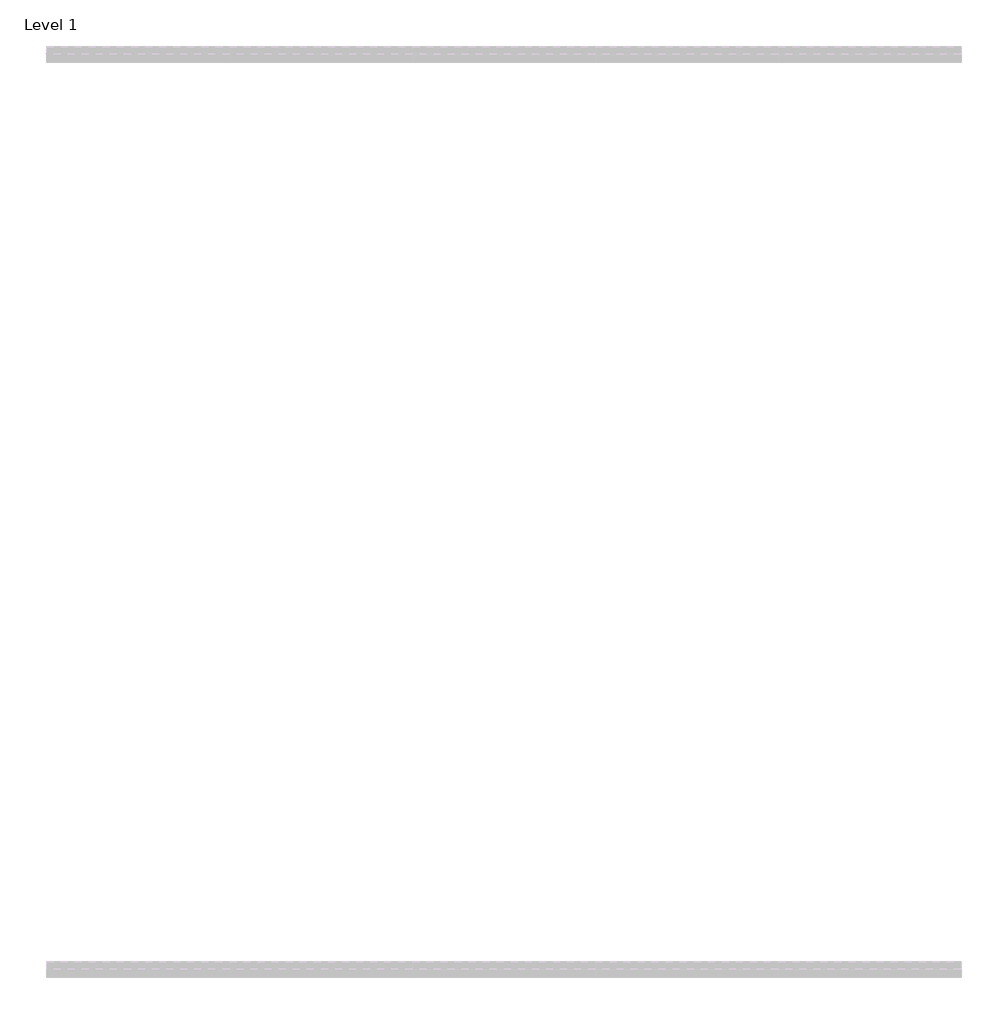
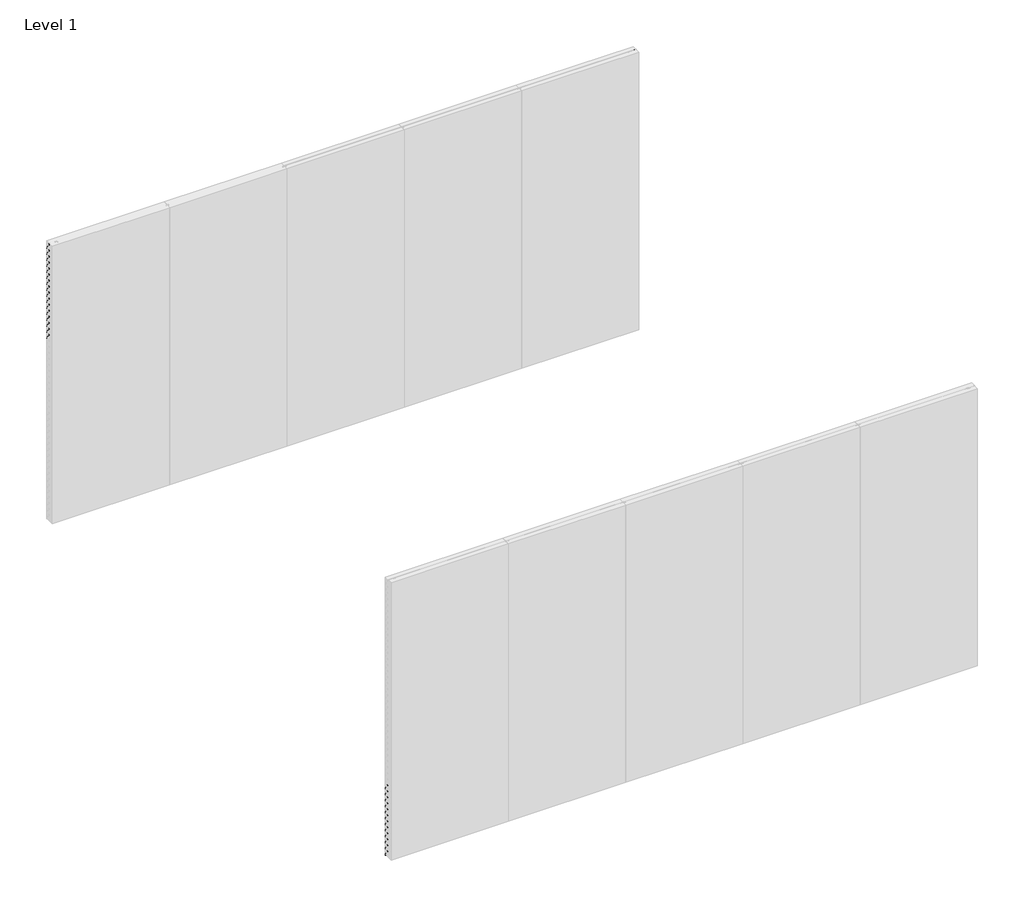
# One storey, part 6 of 7: 28 proxies.
"""IFC4 building model written with IfcOpenShell, lengths in millimetres."""

import ifcopenshell
import ifcopenshell.guid

model = None  # the IFC model being written
_history = None  # IfcOwnerHistory: only IFC2X3 demands one
_inside = {}  # id of a spatial element -> (the spatial element, [elements in it])
_under = {}  # id of a project, library or spatial element -> (it, [spatial elements below it])
_declared = {}  # id of a project -> (the project, [libraries it declares])
_typed = {}  # id of a type object -> (the type object, [elements of that type])
_made_of = {}  # id of a material, layer set ... -> (it, [elements and type objects made of it])


def new_model(schema):
    """Start an empty IFC model of exactly this schema.

    Asked for "IFC4X3", IfcOpenShell would pick the latest addendum, in which some entities
    have other attributes; the version numbers below select the first issue.
    IFC2X3 requires an IfcOwnerHistory on every rooted entity: one is made here for all.
    """
    global model, _history
    if schema == "IFC4X3":
        model = ifcopenshell.file(schema_version=(4, 3, 0, 0))
    else:
        model = ifcopenshell.file(schema=schema)
    _inside.clear()
    _under.clear()
    _declared.clear()
    _typed.clear()
    _made_of.clear()
    _history = None
    if model.schema == "IFC2X3":
        org = make("IfcOrganization", Name="unknown")
        user = make(
            "IfcPersonAndOrganization",
            ThePerson=make("IfcPerson", FamilyName="unknown"),
            TheOrganization=org,
        )
        app = make(
            "IfcApplication",
            ApplicationDeveloper=org,
            Version="unknown",
            ApplicationFullName="unknown",
            ApplicationIdentifier="unknown",
        )
        _history = make(
            "IfcOwnerHistory",
            OwningUser=user,
            OwningApplication=app,
            ChangeAction="ADDED",
            CreationDate=0,
        )
    return model


def make(cls, **values):
    """One entity of the class cls with the attributes given. An attribute that is None is left unset."""
    return model.create_entity(
        cls, **{name: value for name, value in values.items() if value is not None}
    )


def rooted(cls, **values):
    """An entity with a GlobalId (a new one), such as an element, a storey or a relation."""
    return make(cls, GlobalId=ifcopenshell.guid.new(), OwnerHistory=_history, **values)


def si_unit(unit_type, name, prefix=None):
    """IfcSIUnit, for example si_unit("LENGTHUNIT", "METRE", prefix="MILLI")."""
    return make("IfcSIUnit", UnitType=unit_type, Prefix=prefix, Name=name)


def assignment(units):
    """IfcUnitAssignment: the units of a project."""
    return None if units is None else make("IfcUnitAssignment", Units=units)


def point(xyz):
    """IfcCartesianPoint."""
    return None if xyz is None else make("IfcCartesianPoint", Coordinates=xyz)


def direction(xyz):
    """IfcDirection."""
    return None if xyz is None else make("IfcDirection", DirectionRatios=xyz)


def frame(location, z_axis=None, x_axis=None):
    """IfcAxis2Placement3D, a coordinate frame: its origin and axes. An axis left out is left unset."""
    return make(
        "IfcAxis2Placement3D",
        Location=point(location),
        Axis=direction(z_axis),
        RefDirection=direction(x_axis),
    )


def frame_2d(location, x_axis=None):
    """IfcAxis2Placement2D, a coordinate frame in the plane: its origin and x axis."""
    return make(
        "IfcAxis2Placement2D", Location=point(location), RefDirection=direction(x_axis)
    )


def origin():
    """The frame at (0, 0, 0) with its axes left unset."""
    return frame((0.0, 0.0, 0.0))


def place(relative_to, where):
    """IfcLocalPlacement: puts the frame where relative to a parent placement (None: the world)."""
    return make(
        "IfcLocalPlacement", PlacementRelTo=relative_to, RelativePlacement=where
    )


def context(
    kind, dimensions, precision=None, world=None, true_north=None, identifier=None
):
    """IfcGeometricRepresentationContext, for example the 3D "Model" context."""
    return make(
        "IfcGeometricRepresentationContext",
        ContextIdentifier=identifier,
        ContextType=kind,
        CoordinateSpaceDimension=dimensions,
        Precision=precision,
        WorldCoordinateSystem=world,
        TrueNorth=true_north,
    )


def project(units=None, contexts=None):
    """IfcProject with its units and contexts."""
    return rooted(
        "IfcProject",
        Name="project",
        RepresentationContexts=contexts,
        UnitsInContext=assignment(units),
    )


def spatial(cls, under=None, at=None, **own):
    """A site, building, storey or space (cls), placed at a placement, below another one or the project."""
    s = rooted(cls, ObjectPlacement=at, **own)
    if under is not None:
        _under.setdefault(under.id(), (under, []))[1].append(s)
    return s


def polyline(points):
    """IfcPolyline through the points."""
    return make("IfcPolyline", Points=[point(p) for p in points])


def circle_curve(where, radius):
    """IfcCircle in the frame where."""
    return make("IfcCircle", Position=where, Radius=radius)


def trimmed(basis, trim1, trim2, sense, master):
    """IfcTrimmedCurve: the piece of a basis curve between two trims."""
    return make(
        "IfcTrimmedCurve",
        BasisCurve=basis,
        Trim1=trim1,
        Trim2=trim2,
        SenseAgreement=sense,
        MasterRepresentation=master,
    )


def segment(curve, same_sense, transition):
    """IfcCompositeCurveSegment."""
    return make(
        "IfcCompositeCurveSegment",
        Transition=transition,
        SameSense=same_sense,
        ParentCurve=curve,
    )


def composite_curve(segments, self_intersect=None):
    """IfcCompositeCurve: segments joined end to end."""
    return make("IfcCompositeCurve", Segments=segments, SelfIntersect=self_intersect)


def outline(outer, holes=None, kind="AREA"):
    """IfcArbitraryClosedProfileDef: a profile drawn as a closed curve; with holes, ...WithVoids."""
    if holes is None:
        return make("IfcArbitraryClosedProfileDef", ProfileType=kind, OuterCurve=outer)
    return make(
        "IfcArbitraryProfileDefWithVoids",
        ProfileType=kind,
        OuterCurve=outer,
        InnerCurves=holes,
    )


def extrude(swept, where, along, depth):
    """IfcExtrudedAreaSolid: the profile swept, set in the frame where, extruded along a direction by depth."""
    return make(
        "IfcExtrudedAreaSolid",
        SweptArea=swept,
        Position=where,
        ExtrudedDirection=direction(along),
        Depth=depth,
    )


def shape(context_of_items, identifier, shape_type, items):
    """IfcShapeRepresentation: the items that make up one representation, for example the "Body"."""
    return make(
        "IfcShapeRepresentation",
        ContextOfItems=context_of_items,
        RepresentationIdentifier=identifier,
        RepresentationType=shape_type,
        Items=items,
    )


def made_of(thing, what):
    """Note that an element or type object is made of a material, layer set ...; save() writes the relation."""
    if what is not None:
        _made_of.setdefault(what.id(), (what, []))[1].append(thing)
    return thing


def element(
    cls,
    number,
    at=None,
    inside=None,
    cuts=None,
    type_object=None,
    material=None,
    context=None,
    identifier="Body",
    shape_type=None,
    held_by="IfcProductDefinitionShape",
    body=None,
    shapes=None,
    **own,
):
    """One element of the class cls, such as IfcWall. Its Tag is "e" and its number.

    at: its placement. inside: the storey or other place that contains it. cuts: it is an
    opening in that element (IfcRelVoidsElement). A single representation is given by context,
    identifier, shape_type and body (its items); several are given by shapes. held_by: the class
    of the entity that holds the representations. save() writes the other relations.
    """
    e = rooted(cls, Tag="e%d" % number, ObjectPlacement=at, **own)
    if body is not None:
        shapes = [shape(context, identifier, shape_type, body)]
    if shapes is not None:
        e.Representation = make(held_by, Representations=shapes)
    if inside is not None:
        _inside.setdefault(inside.id(), (inside, []))[1].append(e)
    if cuts is not None:
        rooted(
            "IfcRelVoidsElement", RelatingBuildingElement=cuts, RelatedOpeningElement=e
        )
    if type_object is not None:
        _typed.setdefault(type_object.id(), (type_object, []))[1].append(e)
    return made_of(e, material)


def aggregate(whole, parts):
    """IfcRelAggregates: a whole, such as a stair, and the parts it consists of."""
    return rooted("IfcRelAggregates", RelatingObject=whole, RelatedObjects=parts)


def save(model, path):
    """Write the relations noted so far, then the file.

    IfcRelAggregates (storeys below a building ...), IfcRelContainedInSpatialStructure (elements
    in a storey), IfcRelDefinesByType, IfcRelAssociatesMaterial and IfcRelDeclares: one each for
    every whole, place, type object, material and project.
    """
    for whole, parts in _under.values():
        aggregate(whole, parts)
    for where, things in _inside.values():
        rooted(
            "IfcRelContainedInSpatialStructure",
            RelatedElements=things,
            RelatingStructure=where,
        )
    for kind, things in _typed.values():
        rooted("IfcRelDefinesByType", RelatedObjects=things, RelatingType=kind)
    for what, things in _made_of.values():
        rooted("IfcRelAssociatesMaterial", RelatedObjects=things, RelatingMaterial=what)
    for by, libraries in _declared.values():
        rooted("IfcRelDeclares", RelatingContext=by, RelatedDefinitions=libraries)
    model.write(path)


model = new_model("IFC4")

# Units and contexts
model_context = context("Model", 3, world=origin())
ifc_project = project(units=[si_unit("LENGTHUNIT", "METRE", prefix="MILLI")], contexts=[model_context])

# Site, building, storey
site = spatial("IfcSite", under=ifc_project)
building = spatial("IfcBuilding", under=site)
storey = spatial("IfcBuildingStorey", under=building, Name="Level 1", Elevation=0.0)

# Proxies
placement = place(None, origin())
element("IfcBuildingElementProxy", 1, Name="Wall Sweeps", at=placement, inside=storey, context=model_context, shape_type="SweptSolid", body=[
    extrude(outline(composite_curve([segment(polyline([(-1992.5, 766.0025181), (-1992.5, 773.9509429), (-1994.5, 773.9509429), (-1994.5, 771.5421319), (-1996.0, 771.5421319), (-1996.0, 778.6499999), (-1994.5, 778.6499999), (-1994.5, 775.4509429), (-1992.5, 775.4509429), (-1992.5, 778.7999999), (-1992.1784609, 780.0), (-1987.7000054, 780.0), (-1987.7000054, 776.8499997), (-1989.0835735, 778.4999997), (-1991.0, 778.4999997), (-1991.0, 766.6085574), (-1946.0, 720.0096933), (-1946.0, 704.0), (-1947.5, 706.6798), (-1947.5, 709.1208496), (-1948.5, 709.1208496), (-1948.5, 710.6208496), (-1947.5, 710.6208496), (-1947.5, 719.4036539), (-1961.2088107, 733.599543), (-1963.4375599, 731.3707939), (-1962.8739549, 730.8071888)]), True, "CONTINUOUS"), segment(trimmed(circle_curve(frame_2d((-1963.2275083, 730.4536354)), 0.5), [point((-1962.8739549, 730.8071888))], [point((-1963.3569178, 729.9706725))], False, "CARTESIAN"), True, "CONTINUOUS"), segment(polyline([(-1963.3569178, 729.9706725), (-1966.1977917, 730.7318824), (-1962.250957, 734.6787171), (-1992.5, 766.0025181)]), True, "CONTINUOUS")], self_intersect=False)), frame((0.0, 0.0, 0.0), z_axis=(1.0, 0.0, 0.0), x_axis=(0.0, 1.0, 0.0)), (0.0, 0.0, 1.0), 6000.0),
])
element("IfcBuildingElementProxy", 2, Name="Wall Sweeps", at=placement, inside=storey, context=model_context, shape_type="SweptSolid", body=[
    extrude(outline(composite_curve([segment(polyline([(-1992.5, 701.0025181), (-1992.5, 708.9509429), (-1994.5, 708.9509429), (-1994.5, 706.5421319), (-1996.0, 706.5421319), (-1996.0, 713.6499999), (-1994.5, 713.6499999), (-1994.5, 710.4509429), (-1992.5, 710.4509429), (-1992.5, 713.7999999), (-1992.1784609, 715.0), (-1987.7000054, 715.0), (-1987.7000054, 711.8499997), (-1989.0835735, 713.4999997), (-1991.0, 713.4999997), (-1991.0, 701.6085574), (-1946.0, 655.0096933), (-1946.0, 639.0), (-1947.5, 641.6798), (-1947.5, 644.1208496), (-1948.5, 644.1208496), (-1948.5, 645.6208496), (-1947.5, 645.6208496), (-1947.5, 654.4036539), (-1961.2088107, 668.599543), (-1963.4375599, 666.3707939), (-1962.8739549, 665.8071888)]), True, "CONTINUOUS"), segment(trimmed(circle_curve(frame_2d((-1963.2275083, 665.4536354)), 0.5), [point((-1962.8739549, 665.8071888))], [point((-1963.3569178, 664.9706725))], False, "CARTESIAN"), True, "CONTINUOUS"), segment(polyline([(-1963.3569178, 664.9706725), (-1966.1977917, 665.7318824), (-1962.250957, 669.6787171), (-1992.5, 701.0025181)]), True, "CONTINUOUS")], self_intersect=False)), frame((0.0, 0.0, 0.0), z_axis=(1.0, 0.0, 0.0), x_axis=(0.0, 1.0, 0.0)), (0.0, 0.0, 1.0), 6000.0),
])
element("IfcBuildingElementProxy", 3, Name="Wall Sweeps", at=placement, inside=storey, context=model_context, shape_type="SweptSolid", body=[
    extrude(outline(composite_curve([segment(polyline([(-1992.5, 636.0025181), (-1992.5, 643.9509429), (-1994.5, 643.9509429), (-1994.5, 641.5421319), (-1996.0, 641.5421319), (-1996.0, 648.6499999), (-1994.5, 648.6499999), (-1994.5, 645.4509429), (-1992.5, 645.4509429), (-1992.5, 648.7999999), (-1992.1784609, 650.0), (-1987.7000054, 650.0), (-1987.7000054, 646.8499997), (-1989.0835735, 648.4999997), (-1991.0, 648.4999997), (-1991.0, 636.6085574), (-1946.0, 590.0096933), (-1946.0, 574.0), (-1947.5, 576.6798), (-1947.5, 579.1208496), (-1948.5, 579.1208496), (-1948.5, 580.6208496), (-1947.5, 580.6208496), (-1947.5, 589.4036539), (-1961.2088107, 603.599543), (-1963.4375599, 601.3707939), (-1962.8739549, 600.8071888)]), True, "CONTINUOUS"), segment(trimmed(circle_curve(frame_2d((-1963.2275083, 600.4536354)), 0.5), [point((-1962.8739549, 600.8071888))], [point((-1963.3569178, 599.9706725))], False, "CARTESIAN"), True, "CONTINUOUS"), segment(polyline([(-1963.3569178, 599.9706725), (-1966.1977917, 600.7318824), (-1962.250957, 604.6787171), (-1992.5, 636.0025181)]), True, "CONTINUOUS")], self_intersect=False)), frame((0.0, 0.0, 0.0), z_axis=(1.0, 0.0, 0.0), x_axis=(0.0, 1.0, 0.0)), (0.0, 0.0, 1.0), 6000.0),
])
element("IfcBuildingElementProxy", 4, Name="Wall Sweeps", at=placement, inside=storey, context=model_context, shape_type="SweptSolid", body=[
    extrude(outline(composite_curve([segment(polyline([(-1992.5, 571.0025181), (-1992.5, 578.9509429), (-1994.5, 578.9509429), (-1994.5, 576.5421319), (-1996.0, 576.5421319), (-1996.0, 583.6499999), (-1994.5, 583.6499999), (-1994.5, 580.4509429), (-1992.5, 580.4509429), (-1992.5, 583.7999999), (-1992.1784609, 585.0), (-1987.7000054, 585.0), (-1987.7000054, 581.8499997), (-1989.0835735, 583.4999997), (-1991.0, 583.4999997), (-1991.0, 571.6085574), (-1946.0, 525.0096933), (-1946.0, 509.0), (-1947.5, 511.6798), (-1947.5, 514.1208496), (-1948.5, 514.1208496), (-1948.5, 515.6208496), (-1947.5, 515.6208496), (-1947.5, 524.4036539), (-1961.2088107, 538.599543), (-1963.4375599, 536.3707939), (-1962.8739549, 535.8071888)]), True, "CONTINUOUS"), segment(trimmed(circle_curve(frame_2d((-1963.2275083, 535.4536354)), 0.5), [point((-1962.8739549, 535.8071888))], [point((-1963.3569178, 534.9706725))], False, "CARTESIAN"), True, "CONTINUOUS"), segment(polyline([(-1963.3569178, 534.9706725), (-1966.1977917, 535.7318824), (-1962.250957, 539.6787171), (-1992.5, 571.0025181)]), True, "CONTINUOUS")], self_intersect=False)), frame((0.0, 0.0, 0.0), z_axis=(1.0, 0.0, 0.0), x_axis=(0.0, 1.0, 0.0)), (0.0, 0.0, 1.0), 6000.0),
])
element("IfcBuildingElementProxy", 5, Name="Wall Sweeps", at=placement, inside=storey, context=model_context, shape_type="SweptSolid", body=[
    extrude(outline(composite_curve([segment(polyline([(-1992.5, 506.0025181), (-1992.5, 513.9509429), (-1994.5, 513.9509429), (-1994.5, 511.5421319), (-1996.0, 511.5421319), (-1996.0, 518.6499999), (-1994.5, 518.6499999), (-1994.5, 515.4509429), (-1992.5, 515.4509429), (-1992.5, 518.7999999), (-1992.1784609, 520.0), (-1987.7000054, 520.0), (-1987.7000054, 516.8499997), (-1989.0835735, 518.4999997), (-1991.0, 518.4999997), (-1991.0, 506.6085574), (-1946.0, 460.0096933), (-1946.0, 444.0), (-1947.5, 446.6798), (-1947.5, 449.1208496), (-1948.5, 449.1208496), (-1948.5, 450.6208496), (-1947.5, 450.6208496), (-1947.5, 459.4036539), (-1961.2088107, 473.599543), (-1963.4375599, 471.3707939), (-1962.8739549, 470.8071888)]), True, "CONTINUOUS"), segment(trimmed(circle_curve(frame_2d((-1963.2275083, 470.4536354)), 0.5), [point((-1962.8739549, 470.8071888))], [point((-1963.3569178, 469.9706725))], False, "CARTESIAN"), True, "CONTINUOUS"), segment(polyline([(-1963.3569178, 469.9706725), (-1966.1977917, 470.7318824), (-1962.250957, 474.6787171), (-1992.5, 506.0025181)]), True, "CONTINUOUS")], self_intersect=False)), frame((0.0, 0.0, 0.0), z_axis=(1.0, 0.0, 0.0), x_axis=(0.0, 1.0, 0.0)), (0.0, 0.0, 1.0), 6000.0),
])
element("IfcBuildingElementProxy", 6, Name="Wall Sweeps", at=placement, inside=storey, context=model_context, shape_type="SweptSolid", body=[
    extrude(outline(composite_curve([segment(polyline([(-1992.5, 441.0025181), (-1992.5, 448.9509429), (-1994.5, 448.9509429), (-1994.5, 446.5421319), (-1996.0, 446.5421319), (-1996.0, 453.6499999), (-1994.5, 453.6499999), (-1994.5, 450.4509429), (-1992.5, 450.4509429), (-1992.5, 453.7999999), (-1992.1784609, 455.0), (-1987.7000054, 455.0), (-1987.7000054, 451.8499997), (-1989.0835735, 453.4999997), (-1991.0, 453.4999997), (-1991.0, 441.6085574), (-1946.0, 395.0096933), (-1946.0, 379.0), (-1947.5, 381.6798), (-1947.5, 384.1208496), (-1948.5, 384.1208496), (-1948.5, 385.6208496), (-1947.5, 385.6208496), (-1947.5, 394.4036539), (-1961.2088107, 408.599543), (-1963.4375599, 406.3707939), (-1962.8739549, 405.8071888)]), True, "CONTINUOUS"), segment(trimmed(circle_curve(frame_2d((-1963.2275083, 405.4536354)), 0.5), [point((-1962.8739549, 405.8071888))], [point((-1963.3569178, 404.9706725))], False, "CARTESIAN"), True, "CONTINUOUS"), segment(polyline([(-1963.3569178, 404.9706725), (-1966.1977917, 405.7318824), (-1962.250957, 409.6787171), (-1992.5, 441.0025181)]), True, "CONTINUOUS")], self_intersect=False)), frame((0.0, 0.0, 0.0), z_axis=(1.0, 0.0, 0.0), x_axis=(0.0, 1.0, 0.0)), (0.0, 0.0, 1.0), 6000.0),
])
element("IfcBuildingElementProxy", 7, Name="Wall Sweeps", at=placement, inside=storey, context=model_context, shape_type="SweptSolid", body=[
    extrude(outline(composite_curve([segment(polyline([(-1992.5, 376.0025181), (-1992.5, 383.9509429), (-1994.5, 383.9509429), (-1994.5, 381.5421319), (-1996.0, 381.5421319), (-1996.0, 388.6499999), (-1994.5, 388.6499999), (-1994.5, 385.4509429), (-1992.5, 385.4509429), (-1992.5, 388.7999999), (-1992.1784609, 390.0), (-1987.7000054, 390.0), (-1987.7000054, 386.8499997), (-1989.0835735, 388.4999997), (-1991.0, 388.4999997), (-1991.0, 376.6085574), (-1946.0, 330.0096933), (-1946.0, 314.0), (-1947.5, 316.6798), (-1947.5, 319.1208496), (-1948.5, 319.1208496), (-1948.5, 320.6208496), (-1947.5, 320.6208496), (-1947.5, 329.4036539), (-1961.2088107, 343.599543), (-1963.4375599, 341.3707939), (-1962.8739549, 340.8071888)]), True, "CONTINUOUS"), segment(trimmed(circle_curve(frame_2d((-1963.2275083, 340.4536354)), 0.5), [point((-1962.8739549, 340.8071888))], [point((-1963.3569178, 339.9706725))], False, "CARTESIAN"), True, "CONTINUOUS"), segment(polyline([(-1963.3569178, 339.9706725), (-1966.1977917, 340.7318824), (-1962.250957, 344.6787171), (-1992.5, 376.0025181)]), True, "CONTINUOUS")], self_intersect=False)), frame((0.0, 0.0, 0.0), z_axis=(1.0, 0.0, 0.0), x_axis=(0.0, 1.0, 0.0)), (0.0, 0.0, 1.0), 6000.0),
])
element("IfcBuildingElementProxy", 8, Name="Wall Sweeps", at=placement, inside=storey, context=model_context, shape_type="SweptSolid", body=[
    extrude(outline(composite_curve([segment(polyline([(-1992.5, 311.0025181), (-1992.5, 318.9509429), (-1994.5, 318.9509429), (-1994.5, 316.5421319), (-1996.0, 316.5421319), (-1996.0, 323.6499999), (-1994.5, 323.6499999), (-1994.5, 320.4509429), (-1992.5, 320.4509429), (-1992.5, 323.7999999), (-1992.1784609, 325.0), (-1987.7000054, 325.0), (-1987.7000054, 321.8499997), (-1989.0835735, 323.4999997), (-1991.0, 323.4999997), (-1991.0, 311.6085574), (-1946.0, 265.0096933), (-1946.0, 249.0), (-1947.5, 251.6798), (-1947.5, 254.1208496), (-1948.5, 254.1208496), (-1948.5, 255.6208496), (-1947.5, 255.6208496), (-1947.5, 264.4036539), (-1961.2088107, 278.599543), (-1963.4375599, 276.3707939), (-1962.8739549, 275.8071888)]), True, "CONTINUOUS"), segment(trimmed(circle_curve(frame_2d((-1963.2275083, 275.4536354)), 0.5), [point((-1962.8739549, 275.8071888))], [point((-1963.3569178, 274.9706725))], False, "CARTESIAN"), True, "CONTINUOUS"), segment(polyline([(-1963.3569178, 274.9706725), (-1966.1977917, 275.7318824), (-1962.250957, 279.6787171), (-1992.5, 311.0025181)]), True, "CONTINUOUS")], self_intersect=False)), frame((0.0, 0.0, 0.0), z_axis=(1.0, 0.0, 0.0), x_axis=(0.0, 1.0, 0.0)), (0.0, 0.0, 1.0), 6000.0),
])
element("IfcBuildingElementProxy", 9, Name="Wall Sweeps", at=placement, inside=storey, context=model_context, shape_type="SweptSolid", body=[
    extrude(outline(composite_curve([segment(polyline([(-1992.5, 246.0025181), (-1992.5, 253.9509429), (-1994.5, 253.9509429), (-1994.5, 251.5421319), (-1996.0, 251.5421319), (-1996.0, 258.6499999), (-1994.5, 258.6499999), (-1994.5, 255.4509429), (-1992.5, 255.4509429), (-1992.5, 258.7999999), (-1992.1784609, 260.0), (-1987.7000054, 260.0), (-1987.7000054, 256.8499997), (-1989.0835735, 258.4999997), (-1991.0, 258.4999997), (-1991.0, 246.6085574), (-1946.0, 200.0096933), (-1946.0, 184.0), (-1947.5, 186.6798), (-1947.5, 189.1208496), (-1948.5, 189.1208496), (-1948.5, 190.6208496), (-1947.5, 190.6208496), (-1947.5, 199.4036539), (-1961.2088107, 213.599543), (-1963.4375599, 211.3707939), (-1962.8739549, 210.8071888)]), True, "CONTINUOUS"), segment(trimmed(circle_curve(frame_2d((-1963.2275083, 210.4536354)), 0.5), [point((-1962.8739549, 210.8071888))], [point((-1963.3569178, 209.9706725))], False, "CARTESIAN"), True, "CONTINUOUS"), segment(polyline([(-1963.3569178, 209.9706725), (-1966.1977917, 210.7318824), (-1962.250957, 214.6787171), (-1992.5, 246.0025181)]), True, "CONTINUOUS")], self_intersect=False)), frame((0.0, 0.0, 0.0), z_axis=(1.0, 0.0, 0.0), x_axis=(0.0, 1.0, 0.0)), (0.0, 0.0, 1.0), 6000.0),
])
element("IfcBuildingElementProxy", 10, Name="Wall Sweeps", at=placement, inside=storey, context=model_context, shape_type="SweptSolid", body=[
    extrude(outline(composite_curve([segment(polyline([(-1992.5, 181.0025181), (-1992.5, 188.9509429), (-1994.5, 188.9509429), (-1994.5, 186.5421319), (-1996.0, 186.5421319), (-1996.0, 193.6499999), (-1994.5, 193.6499999), (-1994.5, 190.4509429), (-1992.5, 190.4509429), (-1992.5, 193.7999999), (-1992.1784609, 195.0), (-1987.7000054, 195.0), (-1987.7000054, 191.8499997), (-1989.0835735, 193.4999997), (-1991.0, 193.4999997), (-1991.0, 181.6085574), (-1946.0, 135.0096933), (-1946.0, 119.0), (-1947.5, 121.6798), (-1947.5, 124.1208496), (-1948.5, 124.1208496), (-1948.5, 125.6208496), (-1947.5, 125.6208496), (-1947.5, 134.4036539), (-1961.2088107, 148.599543), (-1963.4375599, 146.3707939), (-1962.8739549, 145.8071888)]), True, "CONTINUOUS"), segment(trimmed(circle_curve(frame_2d((-1963.2275083, 145.4536354)), 0.5), [point((-1962.8739549, 145.8071888))], [point((-1963.3569178, 144.9706725))], False, "CARTESIAN"), True, "CONTINUOUS"), segment(polyline([(-1963.3569178, 144.9706725), (-1966.1977917, 145.7318824), (-1962.250957, 149.6787171), (-1992.5, 181.0025181)]), True, "CONTINUOUS")], self_intersect=False)), frame((0.0, 0.0, 0.0), z_axis=(1.0, 0.0, 0.0), x_axis=(0.0, 1.0, 0.0)), (0.0, 0.0, 1.0), 6000.0),
])
element("IfcBuildingElementProxy", 11, Name="Wall Sweeps", at=placement, inside=storey, context=model_context, shape_type="SweptSolid", body=[
    extrude(outline(composite_curve([segment(polyline([(-1992.5, 116.0025181), (-1992.5, 123.9509429), (-1994.5, 123.9509429), (-1994.5, 121.5421319), (-1996.0, 121.5421319), (-1996.0, 128.6499999), (-1994.5, 128.6499999), (-1994.5, 125.4509429), (-1992.5, 125.4509429), (-1992.5, 128.7999999), (-1992.1784609, 130.0), (-1987.7000054, 130.0), (-1987.7000054, 126.8499997), (-1989.0835735, 128.4999997), (-1991.0, 128.4999997), (-1991.0, 116.6085574), (-1946.0, 70.0096933), (-1946.0, 54.0), (-1947.5, 56.6798), (-1947.5, 59.1208496), (-1948.5, 59.1208496), (-1948.5, 60.6208496), (-1947.5, 60.6208496), (-1947.5, 69.4036539), (-1961.2088107, 83.599543), (-1963.4375599, 81.3707939), (-1962.8739549, 80.8071888)]), True, "CONTINUOUS"), segment(trimmed(circle_curve(frame_2d((-1963.2275083, 80.4536354)), 0.5), [point((-1962.8739549, 80.8071888))], [point((-1963.3569178, 79.9706725))], False, "CARTESIAN"), True, "CONTINUOUS"), segment(polyline([(-1963.3569178, 79.9706725), (-1966.1977917, 80.7318824), (-1962.250957, 84.6787171), (-1992.5, 116.0025181)]), True, "CONTINUOUS")], self_intersect=False)), frame((0.0, 0.0, 0.0), z_axis=(1.0, 0.0, 0.0), x_axis=(0.0, 1.0, 0.0)), (0.0, 0.0, 1.0), 6000.0),
])
element("IfcBuildingElementProxy", 12, Name="Wall Sweeps", at=placement, inside=storey, context=model_context, shape_type="SweptSolid", body=[
    extrude(outline(composite_curve([segment(polyline([(-1992.5, 51.0025181), (-1992.5, 58.9509429), (-1994.5, 58.9509429), (-1994.5, 56.5421319), (-1996.0, 56.5421319), (-1996.0, 63.6499999), (-1994.5, 63.6499999), (-1994.5, 60.4509429), (-1992.5, 60.4509429), (-1992.5, 63.7999999), (-1992.1784609, 65.0), (-1987.7000054, 65.0), (-1987.7000054, 61.8499997), (-1989.0835735, 63.4999997), (-1991.0, 63.4999997), (-1991.0, 51.6085574), (-1946.0, 5.0096933), (-1946.0, -11.0), (-1947.5, -8.3202), (-1947.5, -5.8791504), (-1948.5, -5.8791504), (-1948.5, -4.3791504), (-1947.5, -4.3791504), (-1947.5, 4.4036539), (-1961.2088107, 18.599543), (-1963.4375599, 16.3707939), (-1962.8739549, 15.8071888)]), True, "CONTINUOUS"), segment(trimmed(circle_curve(frame_2d((-1963.2275083, 15.4536354)), 0.5), [point((-1962.8739549, 15.8071888))], [point((-1963.3569178, 14.9706725))], False, "CARTESIAN"), True, "CONTINUOUS"), segment(polyline([(-1963.3569178, 14.9706725), (-1966.1977917, 15.7318824), (-1962.250957, 19.6787171), (-1992.5, 51.0025181)]), True, "CONTINUOUS")], self_intersect=False)), frame((0.0, 0.0, 0.0), z_axis=(1.0, 0.0, 0.0), x_axis=(0.0, 1.0, 0.0)), (0.0, 0.0, 1.0), 6000.0),
])
element("IfcBuildingElementProxy", 13, Name="Wall Sweeps", at=placement, inside=storey, context=model_context, shape_type="SweptSolid", body=[
    extrude(outline(composite_curve([segment(polyline([(4007.5, 2976.0025181), (4007.5, 2983.9509429), (4005.5, 2983.9509429), (4005.5, 2981.5421319), (4004.0, 2981.5421319), (4004.0, 2988.6499999), (4005.5, 2988.6499999), (4005.5, 2985.4509429), (4007.5, 2985.4509429), (4007.5, 2988.7999999), (4007.8215391, 2990.0), (4012.2999946, 2990.0), (4012.2999946, 2986.8499997), (4010.9164265, 2988.4999997), (4009.0, 2988.4999997), (4009.0, 2976.6085574), (4054.0, 2930.0096933), (4054.0, 2914.0), (4052.5, 2916.6798), (4052.5, 2919.1208496), (4051.5, 2919.1208496), (4051.5, 2920.6208496), (4052.5, 2920.6208496), (4052.5, 2929.4036539), (4038.7911893, 2943.599543), (4036.5624401, 2941.3707939), (4037.1260451, 2940.8071888)]), True, "CONTINUOUS"), segment(trimmed(circle_curve(frame_2d((4036.7724917, 2940.4536354)), 0.5), [point((4037.1260451, 2940.8071888))], [point((4036.6430822, 2939.9706725))], False, "CARTESIAN"), True, "CONTINUOUS"), segment(polyline([(4036.6430822, 2939.9706725), (4033.8022083, 2940.7318824), (4037.749043, 2944.6787171), (4007.5, 2976.0025181)]), True, "CONTINUOUS")], self_intersect=False)), frame((0.0, 0.0, 0.0), z_axis=(1.0, 0.0, 0.0), x_axis=(0.0, 1.0, 0.0)), (0.0, 0.0, 1.0), 6000.0),
])
element("IfcBuildingElementProxy", 14, Name="Wall Sweeps", at=placement, inside=storey, context=model_context, shape_type="SweptSolid", body=[
    extrude(outline(composite_curve([segment(polyline([(4007.5, 2911.0025181), (4007.5, 2918.9509429), (4005.5, 2918.9509429), (4005.5, 2916.5421319), (4004.0, 2916.5421319), (4004.0, 2923.6499999), (4005.5, 2923.6499999), (4005.5, 2920.4509429), (4007.5, 2920.4509429), (4007.5, 2923.7999999), (4007.8215391, 2925.0), (4012.2999946, 2925.0), (4012.2999946, 2921.8499997), (4010.9164265, 2923.4999997), (4009.0, 2923.4999997), (4009.0, 2911.6085574), (4054.0, 2865.0096933), (4054.0, 2849.0), (4052.5, 2851.6798), (4052.5, 2854.1208496), (4051.5, 2854.1208496), (4051.5, 2855.6208496), (4052.5, 2855.6208496), (4052.5, 2864.4036539), (4038.7911893, 2878.599543), (4036.5624401, 2876.3707939), (4037.1260451, 2875.8071888)]), True, "CONTINUOUS"), segment(trimmed(circle_curve(frame_2d((4036.7724917, 2875.4536354)), 0.5), [point((4037.1260451, 2875.8071888))], [point((4036.6430822, 2874.9706725))], False, "CARTESIAN"), True, "CONTINUOUS"), segment(polyline([(4036.6430822, 2874.9706725), (4033.8022083, 2875.7318824), (4037.749043, 2879.6787171), (4007.5, 2911.0025181)]), True, "CONTINUOUS")], self_intersect=False)), frame((0.0, 0.0, 0.0), z_axis=(1.0, 0.0, 0.0), x_axis=(0.0, 1.0, 0.0)), (0.0, 0.0, 1.0), 6000.0),
])
element("IfcBuildingElementProxy", 15, Name="Wall Sweeps", at=placement, inside=storey, context=model_context, shape_type="SweptSolid", body=[
    extrude(outline(composite_curve([segment(polyline([(4007.5, 2846.0025181), (4007.5, 2853.9509429), (4005.5, 2853.9509429), (4005.5, 2851.5421319), (4004.0, 2851.5421319), (4004.0, 2858.6499999), (4005.5, 2858.6499999), (4005.5, 2855.4509429), (4007.5, 2855.4509429), (4007.5, 2858.7999999), (4007.8215391, 2860.0), (4012.2999946, 2860.0), (4012.2999946, 2856.8499997), (4010.9164265, 2858.4999997), (4009.0, 2858.4999997), (4009.0, 2846.6085574), (4054.0, 2800.0096933), (4054.0, 2784.0), (4052.5, 2786.6798), (4052.5, 2789.1208496), (4051.5, 2789.1208496), (4051.5, 2790.6208496), (4052.5, 2790.6208496), (4052.5, 2799.4036539), (4038.7911893, 2813.599543), (4036.5624401, 2811.3707939), (4037.1260451, 2810.8071888)]), True, "CONTINUOUS"), segment(trimmed(circle_curve(frame_2d((4036.7724917, 2810.4536354)), 0.5), [point((4037.1260451, 2810.8071888))], [point((4036.6430822, 2809.9706725))], False, "CARTESIAN"), True, "CONTINUOUS"), segment(polyline([(4036.6430822, 2809.9706725), (4033.8022083, 2810.7318824), (4037.749043, 2814.6787171), (4007.5, 2846.0025181)]), True, "CONTINUOUS")], self_intersect=False)), frame((0.0, 0.0, 0.0), z_axis=(1.0, 0.0, 0.0), x_axis=(0.0, 1.0, 0.0)), (0.0, 0.0, 1.0), 6000.0),
])
element("IfcBuildingElementProxy", 16, Name="Wall Sweeps", at=placement, inside=storey, context=model_context, shape_type="SweptSolid", body=[
    extrude(outline(composite_curve([segment(polyline([(4007.5, 2781.0025181), (4007.5, 2788.9509429), (4005.5, 2788.9509429), (4005.5, 2786.5421319), (4004.0, 2786.5421319), (4004.0, 2793.6499999), (4005.5, 2793.6499999), (4005.5, 2790.4509429), (4007.5, 2790.4509429), (4007.5, 2793.7999999), (4007.8215391, 2795.0), (4012.2999946, 2795.0), (4012.2999946, 2791.8499997), (4010.9164265, 2793.4999997), (4009.0, 2793.4999997), (4009.0, 2781.6085574), (4054.0, 2735.0096933), (4054.0, 2719.0), (4052.5, 2721.6798), (4052.5, 2724.1208496), (4051.5, 2724.1208496), (4051.5, 2725.6208496), (4052.5, 2725.6208496), (4052.5, 2734.4036539), (4038.7911893, 2748.599543), (4036.5624401, 2746.3707939), (4037.1260451, 2745.8071888)]), True, "CONTINUOUS"), segment(trimmed(circle_curve(frame_2d((4036.7724917, 2745.4536354)), 0.5), [point((4037.1260451, 2745.8071888))], [point((4036.6430822, 2744.9706725))], False, "CARTESIAN"), True, "CONTINUOUS"), segment(polyline([(4036.6430822, 2744.9706725), (4033.8022083, 2745.7318824), (4037.749043, 2749.6787171), (4007.5, 2781.0025181)]), True, "CONTINUOUS")], self_intersect=False)), frame((0.0, 0.0, 0.0), z_axis=(1.0, 0.0, 0.0), x_axis=(0.0, 1.0, 0.0)), (0.0, 0.0, 1.0), 6000.0),
])
element("IfcBuildingElementProxy", 17, Name="Wall Sweeps", at=placement, inside=storey, context=model_context, shape_type="SweptSolid", body=[
    extrude(outline(composite_curve([segment(polyline([(4007.5, 2716.0025181), (4007.5, 2723.9509429), (4005.5, 2723.9509429), (4005.5, 2721.5421319), (4004.0, 2721.5421319), (4004.0, 2728.6499999), (4005.5, 2728.6499999), (4005.5, 2725.4509429), (4007.5, 2725.4509429), (4007.5, 2728.7999999), (4007.8215391, 2730.0), (4012.2999946, 2730.0), (4012.2999946, 2726.8499997), (4010.9164265, 2728.4999997), (4009.0, 2728.4999997), (4009.0, 2716.6085574), (4054.0, 2670.0096933), (4054.0, 2654.0), (4052.5, 2656.6798), (4052.5, 2659.1208496), (4051.5, 2659.1208496), (4051.5, 2660.6208496), (4052.5, 2660.6208496), (4052.5, 2669.4036539), (4038.7911893, 2683.599543), (4036.5624401, 2681.3707939), (4037.1260451, 2680.8071888)]), True, "CONTINUOUS"), segment(trimmed(circle_curve(frame_2d((4036.7724917, 2680.4536354)), 0.5), [point((4037.1260451, 2680.8071888))], [point((4036.6430822, 2679.9706725))], False, "CARTESIAN"), True, "CONTINUOUS"), segment(polyline([(4036.6430822, 2679.9706725), (4033.8022083, 2680.7318824), (4037.749043, 2684.6787171), (4007.5, 2716.0025181)]), True, "CONTINUOUS")], self_intersect=False)), frame((0.0, 0.0, 0.0), z_axis=(1.0, 0.0, 0.0), x_axis=(0.0, 1.0, 0.0)), (0.0, 0.0, 1.0), 6000.0),
])
element("IfcBuildingElementProxy", 18, Name="Wall Sweeps", at=placement, inside=storey, context=model_context, shape_type="SweptSolid", body=[
    extrude(outline(composite_curve([segment(polyline([(4007.5, 2651.0025181), (4007.5, 2658.9509429), (4005.5, 2658.9509429), (4005.5, 2656.5421319), (4004.0, 2656.5421319), (4004.0, 2663.6499999), (4005.5, 2663.6499999), (4005.5, 2660.4509429), (4007.5, 2660.4509429), (4007.5, 2663.7999999), (4007.8215391, 2665.0), (4012.2999946, 2665.0), (4012.2999946, 2661.8499997), (4010.9164265, 2663.4999997), (4009.0, 2663.4999997), (4009.0, 2651.6085574), (4054.0, 2605.0096933), (4054.0, 2589.0), (4052.5, 2591.6798), (4052.5, 2594.1208496), (4051.5, 2594.1208496), (4051.5, 2595.6208496), (4052.5, 2595.6208496), (4052.5, 2604.4036539), (4038.7911893, 2618.599543), (4036.5624401, 2616.3707939), (4037.1260451, 2615.8071888)]), True, "CONTINUOUS"), segment(trimmed(circle_curve(frame_2d((4036.7724917, 2615.4536354)), 0.5), [point((4037.1260451, 2615.8071888))], [point((4036.6430822, 2614.9706725))], False, "CARTESIAN"), True, "CONTINUOUS"), segment(polyline([(4036.6430822, 2614.9706725), (4033.8022083, 2615.7318824), (4037.749043, 2619.6787171), (4007.5, 2651.0025181)]), True, "CONTINUOUS")], self_intersect=False)), frame((0.0, 0.0, 0.0), z_axis=(1.0, 0.0, 0.0), x_axis=(0.0, 1.0, 0.0)), (0.0, 0.0, 1.0), 6000.0),
])
element("IfcBuildingElementProxy", 19, Name="Wall Sweeps", at=placement, inside=storey, context=model_context, shape_type="SweptSolid", body=[
    extrude(outline(composite_curve([segment(polyline([(4007.5, 2586.0025181), (4007.5, 2593.9509429), (4005.5, 2593.9509429), (4005.5, 2591.5421319), (4004.0, 2591.5421319), (4004.0, 2598.6499999), (4005.5, 2598.6499999), (4005.5, 2595.4509429), (4007.5, 2595.4509429), (4007.5, 2598.7999999), (4007.8215391, 2600.0), (4012.2999946, 2600.0), (4012.2999946, 2596.8499997), (4010.9164265, 2598.4999997), (4009.0, 2598.4999997), (4009.0, 2586.6085574), (4054.0, 2540.0096933), (4054.0, 2524.0), (4052.5, 2526.6798), (4052.5, 2529.1208496), (4051.5, 2529.1208496), (4051.5, 2530.6208496), (4052.5, 2530.6208496), (4052.5, 2539.4036539), (4038.7911893, 2553.599543), (4036.5624401, 2551.3707939), (4037.1260451, 2550.8071888)]), True, "CONTINUOUS"), segment(trimmed(circle_curve(frame_2d((4036.7724917, 2550.4536354)), 0.5), [point((4037.1260451, 2550.8071888))], [point((4036.6430822, 2549.9706725))], False, "CARTESIAN"), True, "CONTINUOUS"), segment(polyline([(4036.6430822, 2549.9706725), (4033.8022083, 2550.7318824), (4037.749043, 2554.6787171), (4007.5, 2586.0025181)]), True, "CONTINUOUS")], self_intersect=False)), frame((0.0, 0.0, 0.0), z_axis=(1.0, 0.0, 0.0), x_axis=(0.0, 1.0, 0.0)), (0.0, 0.0, 1.0), 6000.0),
])
element("IfcBuildingElementProxy", 20, Name="Wall Sweeps", at=placement, inside=storey, context=model_context, shape_type="SweptSolid", body=[
    extrude(outline(composite_curve([segment(polyline([(4007.5, 2521.0025181), (4007.5, 2528.9509429), (4005.5, 2528.9509429), (4005.5, 2526.5421319), (4004.0, 2526.5421319), (4004.0, 2533.6499999), (4005.5, 2533.6499999), (4005.5, 2530.4509429), (4007.5, 2530.4509429), (4007.5, 2533.7999999), (4007.8215391, 2535.0), (4012.2999946, 2535.0), (4012.2999946, 2531.8499997), (4010.9164265, 2533.4999997), (4009.0, 2533.4999997), (4009.0, 2521.6085574), (4054.0, 2475.0096933), (4054.0, 2459.0), (4052.5, 2461.6798), (4052.5, 2464.1208496), (4051.5, 2464.1208496), (4051.5, 2465.6208496), (4052.5, 2465.6208496), (4052.5, 2474.4036539), (4038.7911893, 2488.599543), (4036.5624401, 2486.3707939), (4037.1260451, 2485.8071888)]), True, "CONTINUOUS"), segment(trimmed(circle_curve(frame_2d((4036.7724917, 2485.4536354)), 0.5), [point((4037.1260451, 2485.8071888))], [point((4036.6430822, 2484.9706725))], False, "CARTESIAN"), True, "CONTINUOUS"), segment(polyline([(4036.6430822, 2484.9706725), (4033.8022083, 2485.7318824), (4037.749043, 2489.6787171), (4007.5, 2521.0025181)]), True, "CONTINUOUS")], self_intersect=False)), frame((0.0, 0.0, 0.0), z_axis=(1.0, 0.0, 0.0), x_axis=(0.0, 1.0, 0.0)), (0.0, 0.0, 1.0), 6000.0),
])
element("IfcBuildingElementProxy", 21, Name="Wall Sweeps", at=placement, inside=storey, context=model_context, shape_type="SweptSolid", body=[
    extrude(outline(composite_curve([segment(polyline([(4007.5, 2456.0025181), (4007.5, 2463.9509429), (4005.5, 2463.9509429), (4005.5, 2461.5421319), (4004.0, 2461.5421319), (4004.0, 2468.6499999), (4005.5, 2468.6499999), (4005.5, 2465.4509429), (4007.5, 2465.4509429), (4007.5, 2468.7999999), (4007.8215391, 2470.0), (4012.2999946, 2470.0), (4012.2999946, 2466.8499997), (4010.9164265, 2468.4999997), (4009.0, 2468.4999997), (4009.0, 2456.6085574), (4054.0, 2410.0096933), (4054.0, 2394.0), (4052.5, 2396.6798), (4052.5, 2399.1208496), (4051.5, 2399.1208496), (4051.5, 2400.6208496), (4052.5, 2400.6208496), (4052.5, 2409.4036539), (4038.7911893, 2423.599543), (4036.5624401, 2421.3707939), (4037.1260451, 2420.8071888)]), True, "CONTINUOUS"), segment(trimmed(circle_curve(frame_2d((4036.7724917, 2420.4536354)), 0.5), [point((4037.1260451, 2420.8071888))], [point((4036.6430822, 2419.9706725))], False, "CARTESIAN"), True, "CONTINUOUS"), segment(polyline([(4036.6430822, 2419.9706725), (4033.8022083, 2420.7318824), (4037.749043, 2424.6787171), (4007.5, 2456.0025181)]), True, "CONTINUOUS")], self_intersect=False)), frame((0.0, 0.0, 0.0), z_axis=(1.0, 0.0, 0.0), x_axis=(0.0, 1.0, 0.0)), (0.0, 0.0, 1.0), 6000.0),
])
element("IfcBuildingElementProxy", 22, Name="Wall Sweeps", at=placement, inside=storey, context=model_context, shape_type="SweptSolid", body=[
    extrude(outline(composite_curve([segment(polyline([(4007.5, 2391.0025181), (4007.5, 2398.9509429), (4005.5, 2398.9509429), (4005.5, 2396.5421319), (4004.0, 2396.5421319), (4004.0, 2403.6499999), (4005.5, 2403.6499999), (4005.5, 2400.4509429), (4007.5, 2400.4509429), (4007.5, 2403.7999999), (4007.8215391, 2405.0), (4012.2999946, 2405.0), (4012.2999946, 2401.8499997), (4010.9164265, 2403.4999997), (4009.0, 2403.4999997), (4009.0, 2391.6085574), (4054.0, 2345.0096933), (4054.0, 2329.0), (4052.5, 2331.6798), (4052.5, 2334.1208496), (4051.5, 2334.1208496), (4051.5, 2335.6208496), (4052.5, 2335.6208496), (4052.5, 2344.4036539), (4038.7911893, 2358.599543), (4036.5624401, 2356.3707939), (4037.1260451, 2355.8071888)]), True, "CONTINUOUS"), segment(trimmed(circle_curve(frame_2d((4036.7724917, 2355.4536354)), 0.5), [point((4037.1260451, 2355.8071888))], [point((4036.6430822, 2354.9706725))], False, "CARTESIAN"), True, "CONTINUOUS"), segment(polyline([(4036.6430822, 2354.9706725), (4033.8022083, 2355.7318824), (4037.749043, 2359.6787171), (4007.5, 2391.0025181)]), True, "CONTINUOUS")], self_intersect=False)), frame((0.0, 0.0, 0.0), z_axis=(1.0, 0.0, 0.0), x_axis=(0.0, 1.0, 0.0)), (0.0, 0.0, 1.0), 6000.0),
])
element("IfcBuildingElementProxy", 23, Name="Wall Sweeps", at=placement, inside=storey, context=model_context, shape_type="SweptSolid", body=[
    extrude(outline(composite_curve([segment(polyline([(4007.5, 2326.0025181), (4007.5, 2333.9509429), (4005.5, 2333.9509429), (4005.5, 2331.5421319), (4004.0, 2331.5421319), (4004.0, 2338.6499999), (4005.5, 2338.6499999), (4005.5, 2335.4509429), (4007.5, 2335.4509429), (4007.5, 2338.7999999), (4007.8215391, 2340.0), (4012.2999946, 2340.0), (4012.2999946, 2336.8499997), (4010.9164265, 2338.4999997), (4009.0, 2338.4999997), (4009.0, 2326.6085574), (4054.0, 2280.0096933), (4054.0, 2264.0), (4052.5, 2266.6798), (4052.5, 2269.1208496), (4051.5, 2269.1208496), (4051.5, 2270.6208496), (4052.5, 2270.6208496), (4052.5, 2279.4036539), (4038.7911893, 2293.599543), (4036.5624401, 2291.3707939), (4037.1260451, 2290.8071888)]), True, "CONTINUOUS"), segment(trimmed(circle_curve(frame_2d((4036.7724917, 2290.4536354)), 0.5), [point((4037.1260451, 2290.8071888))], [point((4036.6430822, 2289.9706725))], False, "CARTESIAN"), True, "CONTINUOUS"), segment(polyline([(4036.6430822, 2289.9706725), (4033.8022083, 2290.7318824), (4037.749043, 2294.6787171), (4007.5, 2326.0025181)]), True, "CONTINUOUS")], self_intersect=False)), frame((0.0, 0.0, 0.0), z_axis=(1.0, 0.0, 0.0), x_axis=(0.0, 1.0, 0.0)), (0.0, 0.0, 1.0), 6000.0),
])
element("IfcBuildingElementProxy", 24, Name="Wall Sweeps", at=placement, inside=storey, context=model_context, shape_type="SweptSolid", body=[
    extrude(outline(composite_curve([segment(polyline([(4007.5, 2261.0025181), (4007.5, 2268.9509429), (4005.5, 2268.9509429), (4005.5, 2266.5421319), (4004.0, 2266.5421319), (4004.0, 2273.6499999), (4005.5, 2273.6499999), (4005.5, 2270.4509429), (4007.5, 2270.4509429), (4007.5, 2273.7999999), (4007.8215391, 2275.0), (4012.2999946, 2275.0), (4012.2999946, 2271.8499997), (4010.9164265, 2273.4999997), (4009.0, 2273.4999997), (4009.0, 2261.6085574), (4054.0, 2215.0096933), (4054.0, 2199.0), (4052.5, 2201.6798), (4052.5, 2204.1208496), (4051.5, 2204.1208496), (4051.5, 2205.6208496), (4052.5, 2205.6208496), (4052.5, 2214.4036539), (4038.7911893, 2228.599543), (4036.5624401, 2226.3707939), (4037.1260451, 2225.8071888)]), True, "CONTINUOUS"), segment(trimmed(circle_curve(frame_2d((4036.7724917, 2225.4536354)), 0.5), [point((4037.1260451, 2225.8071888))], [point((4036.6430822, 2224.9706725))], False, "CARTESIAN"), True, "CONTINUOUS"), segment(polyline([(4036.6430822, 2224.9706725), (4033.8022083, 2225.7318824), (4037.749043, 2229.6787171), (4007.5, 2261.0025181)]), True, "CONTINUOUS")], self_intersect=False)), frame((0.0, 0.0, 0.0), z_axis=(1.0, 0.0, 0.0), x_axis=(0.0, 1.0, 0.0)), (0.0, 0.0, 1.0), 6000.0),
])
element("IfcBuildingElementProxy", 25, Name="Wall Sweeps", at=placement, inside=storey, context=model_context, shape_type="SweptSolid", body=[
    extrude(outline(composite_curve([segment(polyline([(4007.5, 2196.0025181), (4007.5, 2203.9509429), (4005.5, 2203.9509429), (4005.5, 2201.5421319), (4004.0, 2201.5421319), (4004.0, 2208.6499999), (4005.5, 2208.6499999), (4005.5, 2205.4509429), (4007.5, 2205.4509429), (4007.5, 2208.7999999), (4007.8215391, 2210.0), (4012.2999946, 2210.0), (4012.2999946, 2206.8499997), (4010.9164265, 2208.4999997), (4009.0, 2208.4999997), (4009.0, 2196.6085574), (4054.0, 2150.0096933), (4054.0, 2134.0), (4052.5, 2136.6798), (4052.5, 2139.1208496), (4051.5, 2139.1208496), (4051.5, 2140.6208496), (4052.5, 2140.6208496), (4052.5, 2149.4036539), (4038.7911893, 2163.599543), (4036.5624401, 2161.3707939), (4037.1260451, 2160.8071888)]), True, "CONTINUOUS"), segment(trimmed(circle_curve(frame_2d((4036.7724917, 2160.4536354)), 0.5), [point((4037.1260451, 2160.8071888))], [point((4036.6430822, 2159.9706725))], False, "CARTESIAN"), True, "CONTINUOUS"), segment(polyline([(4036.6430822, 2159.9706725), (4033.8022083, 2160.7318824), (4037.749043, 2164.6787171), (4007.5, 2196.0025181)]), True, "CONTINUOUS")], self_intersect=False)), frame((0.0, 0.0, 0.0), z_axis=(1.0, 0.0, 0.0), x_axis=(0.0, 1.0, 0.0)), (0.0, 0.0, 1.0), 6000.0),
])
element("IfcBuildingElementProxy", 26, Name="Wall Sweeps", at=placement, inside=storey, context=model_context, shape_type="SweptSolid", body=[
    extrude(outline(composite_curve([segment(polyline([(4007.5, 2131.0025181), (4007.5, 2138.9509429), (4005.5, 2138.9509429), (4005.5, 2136.5421319), (4004.0, 2136.5421319), (4004.0, 2143.6499999), (4005.5, 2143.6499999), (4005.5, 2140.4509429), (4007.5, 2140.4509429), (4007.5, 2143.7999999), (4007.8215391, 2145.0), (4012.2999946, 2145.0), (4012.2999946, 2141.8499997), (4010.9164265, 2143.4999997), (4009.0, 2143.4999997), (4009.0, 2131.6085574), (4054.0, 2085.0096933), (4054.0, 2069.0), (4052.5, 2071.6798), (4052.5, 2074.1208496), (4051.5, 2074.1208496), (4051.5, 2075.6208496), (4052.5, 2075.6208496), (4052.5, 2084.4036539), (4038.7911893, 2098.599543), (4036.5624401, 2096.3707939), (4037.1260451, 2095.8071888)]), True, "CONTINUOUS"), segment(trimmed(circle_curve(frame_2d((4036.7724917, 2095.4536354)), 0.5), [point((4037.1260451, 2095.8071888))], [point((4036.6430822, 2094.9706725))], False, "CARTESIAN"), True, "CONTINUOUS"), segment(polyline([(4036.6430822, 2094.9706725), (4033.8022083, 2095.7318824), (4037.749043, 2099.6787171), (4007.5, 2131.0025181)]), True, "CONTINUOUS")], self_intersect=False)), frame((0.0, 0.0, 0.0), z_axis=(1.0, 0.0, 0.0), x_axis=(0.0, 1.0, 0.0)), (0.0, 0.0, 1.0), 6000.0),
])
element("IfcBuildingElementProxy", 27, Name="Wall Sweeps", at=placement, inside=storey, context=model_context, shape_type="SweptSolid", body=[
    extrude(outline(composite_curve([segment(polyline([(4007.5, 2066.0025181), (4007.5, 2073.9509429), (4005.5, 2073.9509429), (4005.5, 2071.5421319), (4004.0, 2071.5421319), (4004.0, 2078.6499999), (4005.5, 2078.6499999), (4005.5, 2075.4509429), (4007.5, 2075.4509429), (4007.5, 2078.7999999), (4007.8215391, 2080.0), (4012.2999946, 2080.0), (4012.2999946, 2076.8499997), (4010.9164265, 2078.4999997), (4009.0, 2078.4999997), (4009.0, 2066.6085574), (4054.0, 2020.0096933), (4054.0, 2004.0), (4052.5, 2006.6798), (4052.5, 2009.1208496), (4051.5, 2009.1208496), (4051.5, 2010.6208496), (4052.5, 2010.6208496), (4052.5, 2019.4036539), (4038.7911893, 2033.599543), (4036.5624401, 2031.3707939), (4037.1260451, 2030.8071888)]), True, "CONTINUOUS"), segment(trimmed(circle_curve(frame_2d((4036.7724917, 2030.4536354)), 0.5), [point((4037.1260451, 2030.8071888))], [point((4036.6430822, 2029.9706725))], False, "CARTESIAN"), True, "CONTINUOUS"), segment(polyline([(4036.6430822, 2029.9706725), (4033.8022083, 2030.7318824), (4037.749043, 2034.6787171), (4007.5, 2066.0025181)]), True, "CONTINUOUS")], self_intersect=False)), frame((0.0, 0.0, 0.0), z_axis=(1.0, 0.0, 0.0), x_axis=(0.0, 1.0, 0.0)), (0.0, 0.0, 1.0), 6000.0),
])
element("IfcBuildingElementProxy", 28, Name="Wall Sweeps", at=placement, inside=storey, context=model_context, shape_type="SweptSolid", body=[
    extrude(outline(composite_curve([segment(polyline([(4007.5, 2001.0025181), (4007.5, 2008.9509429), (4005.5, 2008.9509429), (4005.5, 2006.5421319), (4004.0, 2006.5421319), (4004.0, 2013.6499999), (4005.5, 2013.6499999), (4005.5, 2010.4509429), (4007.5, 2010.4509429), (4007.5, 2013.7999999), (4007.8215391, 2015.0), (4012.2999946, 2015.0), (4012.2999946, 2011.8499997), (4010.9164265, 2013.4999997), (4009.0, 2013.4999997), (4009.0, 2001.6085574), (4054.0, 1955.0096933), (4054.0, 1939.0), (4052.5, 1941.6798), (4052.5, 1944.1208496), (4051.5, 1944.1208496), (4051.5, 1945.6208496), (4052.5, 1945.6208496), (4052.5, 1954.4036539), (4038.7911893, 1968.599543), (4036.5624401, 1966.3707939), (4037.1260451, 1965.8071888)]), True, "CONTINUOUS"), segment(trimmed(circle_curve(frame_2d((4036.7724917, 1965.4536354)), 0.5), [point((4037.1260451, 1965.8071888))], [point((4036.6430822, 1964.9706725))], False, "CARTESIAN"), True, "CONTINUOUS"), segment(polyline([(4036.6430822, 1964.9706725), (4033.8022083, 1965.7318824), (4037.749043, 1969.6787171), (4007.5, 2001.0025181)]), True, "CONTINUOUS")], self_intersect=False)), frame((0.0, 0.0, 0.0), z_axis=(1.0, 0.0, 0.0), x_axis=(0.0, 1.0, 0.0)), (0.0, 0.0, 1.0), 6000.0),
])

save(model, "model.ifc")
